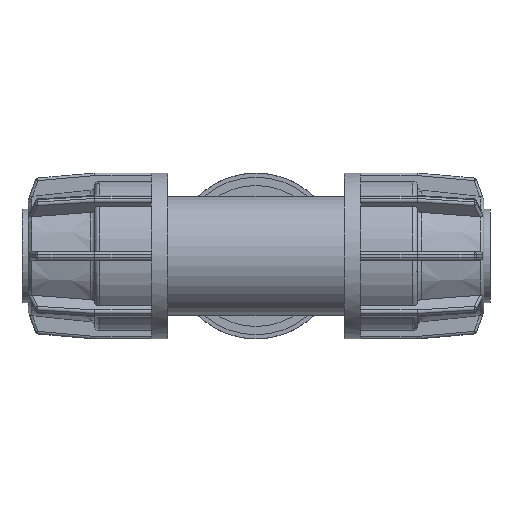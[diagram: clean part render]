
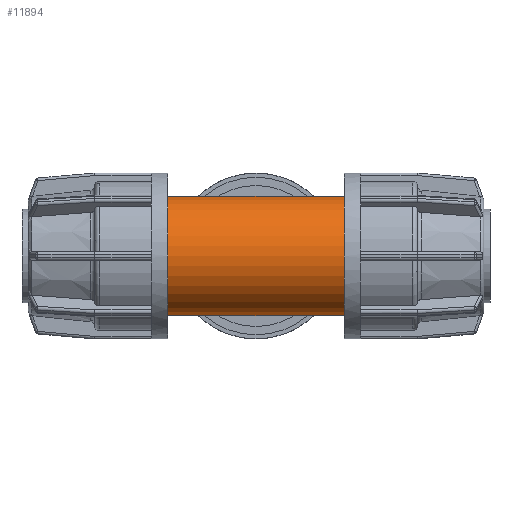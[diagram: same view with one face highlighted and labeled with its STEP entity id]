
A CAD part, front view. The second image highlights one B-rep face of the part: STEP entity #11894.
In plain terms, the highlighted cylindrical face has radius 14 mm (diameter 28 mm), a full revolution.
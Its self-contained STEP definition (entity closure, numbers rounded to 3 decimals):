
#17=ELLIPSE('',#13108,19.799,14.);
#18=ELLIPSE('',#13109,19.799,14.);
#2442=FACE_BOUND('',#3791,.T.);
#2443=FACE_BOUND('',#3792,.T.);
#2980=FACE_OUTER_BOUND('',#3790,.T.);
#3790=EDGE_LOOP('',(#9941));
#3791=EDGE_LOOP('',(#9942));
#3792=EDGE_LOOP('',(#9943,#9944));
#4070=CIRCLE('',#12162,14.);
#4506=CIRCLE('',#13123,14.);
#4727=VERTEX_POINT('',#17222);
#5417=VERTEX_POINT('',#21242);
#5418=VERTEX_POINT('',#21243);
#5423=VERTEX_POINT('',#21263);
#5772=EDGE_CURVE('',#4727,#4727,#4070,.T.);
#6957=EDGE_CURVE('',#5417,#5418,#17,.T.);
#6958=EDGE_CURVE('',#5417,#5418,#18,.T.);
#6964=EDGE_CURVE('',#5423,#5423,#4506,.T.);
#9941=ORIENTED_EDGE('',*,*,#5772,.T.);
#9942=ORIENTED_EDGE('',*,*,#6964,.T.);
#9943=ORIENTED_EDGE('',*,*,#6958,.T.);
#9944=ORIENTED_EDGE('',*,*,#6957,.F.);
#11293=CYLINDRICAL_SURFACE('',#13122,14.);
#11894=ADVANCED_FACE('',(#2980,#2442,#2443),#11293,.T.);
#12162=AXIS2_PLACEMENT_3D('',#17223,#13613,#13614);
#13108=AXIS2_PLACEMENT_3D('',#21244,#15985,#15986);
#13109=AXIS2_PLACEMENT_3D('',#21245,#15987,#15988);
#13122=AXIS2_PLACEMENT_3D('',#21262,#16013,#16014);
#13123=AXIS2_PLACEMENT_3D('',#21264,#16015,#16016);
#13613=DIRECTION('center_axis',(1.,0.,0.));
#13614=DIRECTION('ref_axis',(0.,0.,-1.));
#15985=DIRECTION('center_axis',(0.707,0.707,0.));
#15986=DIRECTION('ref_axis',(0.707,-0.707,0.));
#15987=DIRECTION('center_axis',(0.707,-0.707,0.));
#15988=DIRECTION('ref_axis',(-0.707,-0.707,0.));
#16013=DIRECTION('center_axis',(1.,0.,0.));
#16014=DIRECTION('ref_axis',(0.,1.,0.));
#16015=DIRECTION('center_axis',(-1.,0.,0.));
#16016=DIRECTION('ref_axis',(0.,0.,-1.));
#17222=CARTESIAN_POINT('',(-31.25,0.,14.));
#17223=CARTESIAN_POINT('Origin',(-31.25,0.,0.));
#21242=CARTESIAN_POINT('',(0.,0.,-14.));
#21243=CARTESIAN_POINT('',(0.,0.,14.));
#21244=CARTESIAN_POINT('Origin',(0.,0.,0.));
#21245=CARTESIAN_POINT('Origin',(0.,0.,0.));
#21262=CARTESIAN_POINT('Origin',(10.4,0.,0.));
#21263=CARTESIAN_POINT('',(31.25,0.,14.));
#21264=CARTESIAN_POINT('Origin',(31.25,0.,0.));
